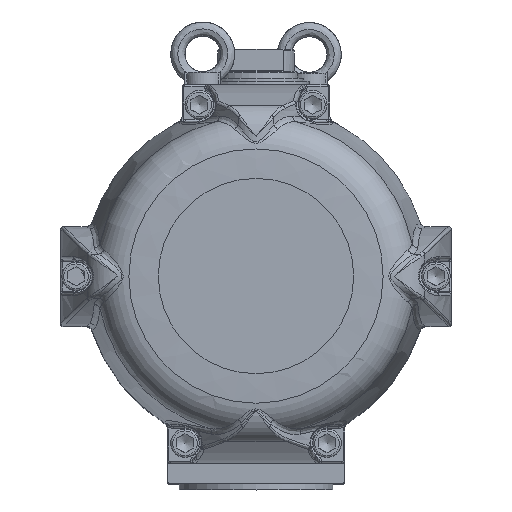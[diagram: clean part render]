
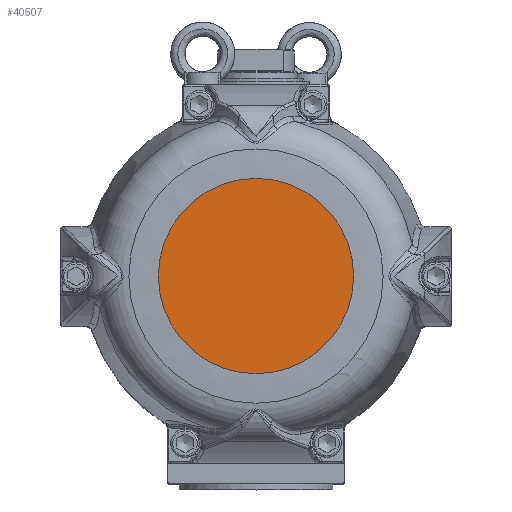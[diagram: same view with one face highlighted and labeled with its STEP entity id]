
A CAD part, top view. The second image highlights one B-rep face of the part: STEP entity #40507.
In plain terms, the highlighted planar face has unit normal (0, 0, 1).
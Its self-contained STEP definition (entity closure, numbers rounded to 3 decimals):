
#7031=PLANE('',#44345);
#9207=FACE_OUTER_BOUND('',#11619,.T.);
#11619=EDGE_LOOP('',(#34117));
#14046=CIRCLE('',#44346,82.5);
#17511=VERTEX_POINT('',#99655);
#23172=EDGE_CURVE('',#17511,#17511,#14046,.T.);
#34117=ORIENTED_EDGE('',*,*,#23172,.F.);
#40507=ADVANCED_FACE('',(#9207),#7031,.T.);
#44345=AXIS2_PLACEMENT_3D('',#99654,#52941,#52942);
#44346=AXIS2_PLACEMENT_3D('',#99656,#52943,#52944);
#52941=DIRECTION('center_axis',(0.,0.,
1.));
#52942=DIRECTION('ref_axis',(0.,1.,0.));
#52943=DIRECTION('center_axis',(0.,0.,
-1.));
#52944=DIRECTION('ref_axis',(1.,0.,0.));
#99654=CARTESIAN_POINT('Origin',(41.25,0.,
347.5));
#99655=CARTESIAN_POINT('',(0.,82.5,347.5));
#99656=CARTESIAN_POINT('Origin',(0.,0.,
347.5));
